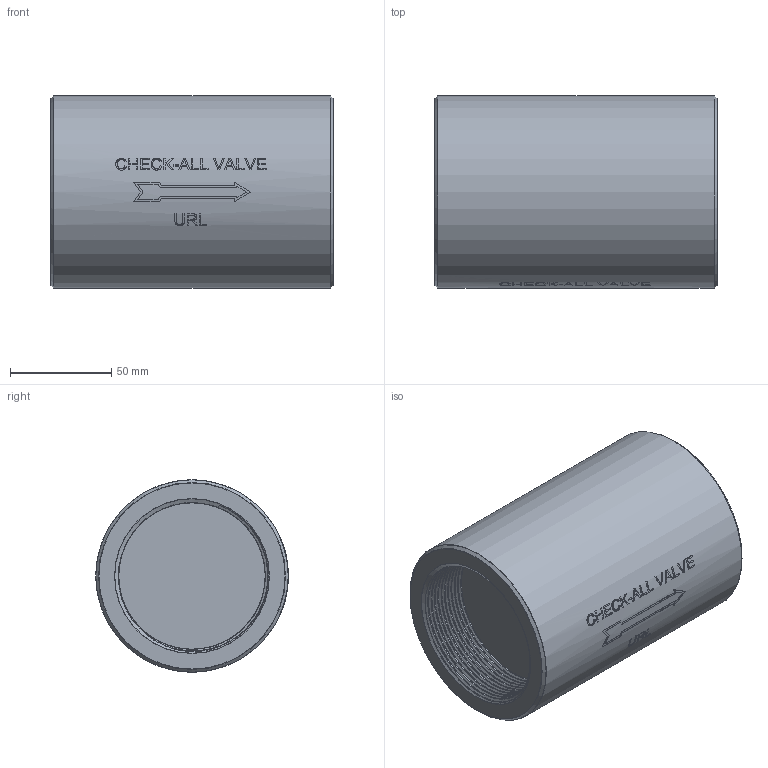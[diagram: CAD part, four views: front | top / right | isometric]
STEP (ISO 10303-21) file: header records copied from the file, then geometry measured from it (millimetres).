
FILE_DESCRIPTION( ( 'Unknown' ), '1' );
FILE_NAME( 'Y:/ENGR/3D Solid Edge Models/UR/stp/URL.stp', 'Unknown', ( 'Unknown' ), ( 'Unknown' ), 'PSStep 16.0.42', 'Unknown', ' ' );
FILE_SCHEMA( ( 'AUTOMOTIVE_DESIGN { 1 0 10303 214 1 1 1 1 }' ) );
Length unit declared in the file: millimetre
Products named in the file (1): 1
Bounding box: 139.83 x 95.25 x 95.25 mm (x, y, z)
Volume: 766506.6 mm3; surface area: 76364.2 mm2
Topology: 1 solids, 1 shells, 206 faces, 538 edges, 358 vertices
Faces by surface type: plane 110, bspline 61, cylinder 25, torus 6, cone 4
Full cylindrical faces by diameter (mm): 95.25 x1
Entity records: 61134 total; most frequent: CARTESIAN_POINT 54874, ORIENTED_EDGE 1038, DIRECTION 766, EDGE_CURVE 519, VERTEX_POINT 350, LINE 274, VECTOR 274, AXIS2_PLACEMENT_3D 246
